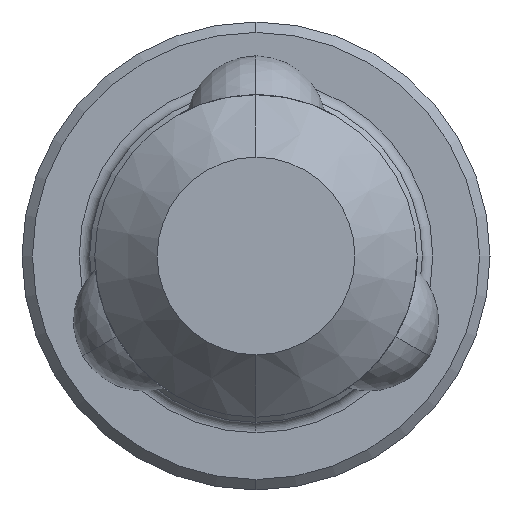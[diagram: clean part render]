
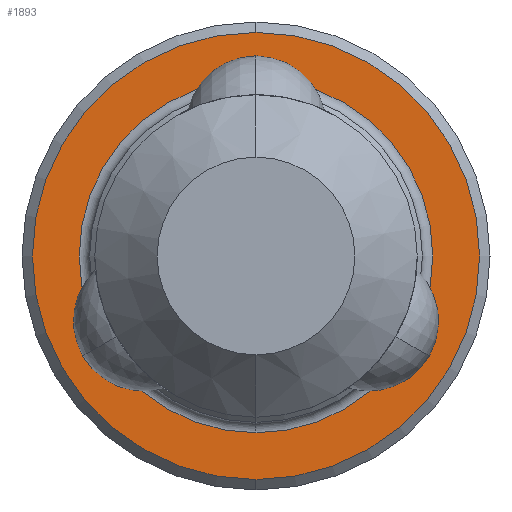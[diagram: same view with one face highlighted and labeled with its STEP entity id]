
A CAD part, front view. The second image highlights one B-rep face of the part: STEP entity #1893.
In plain terms, the highlighted planar face has unit normal (0, -1, 0).
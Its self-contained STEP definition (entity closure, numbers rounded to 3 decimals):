
#192 = CIRCLE ( 'NONE', #636, 8.5 ) ;
#281 = VERTEX_POINT ( 'NONE', #1667 ) ;
#292 = DIRECTION ( 'NONE',  ( 0., 1., 0. ) ) ;
#298 = ORIENTED_EDGE ( 'NONE', *, *, #521, .F. ) ;
#348 = CARTESIAN_POINT ( 'NONE',  ( 0., 31.8, 0. ) ) ;
#357 = CARTESIAN_POINT ( 'NONE',  ( 0., 31.8, 0. ) ) ;
#483 = VERTEX_POINT ( 'NONE', #1973 ) ;
#488 = EDGE_LOOP ( 'NONE', ( #1801, #298 ) ) ;
#521 = EDGE_CURVE ( 'NONE', #1642, #281, #1841, .T. ) ;
#547 = EDGE_LOOP ( 'NONE', ( #2656, #2269 ) ) ;
#592 = DIRECTION ( 'NONE',  ( 0., -1., 0. ) ) ;
#609 = DIRECTION ( 'NONE',  ( 0., -1., 0. ) ) ;
#628 = CARTESIAN_POINT ( 'NONE',  ( 0., 31.8, 8.5 ) ) ;
#636 = AXIS2_PLACEMENT_3D ( 'NONE', #985, #592, #2695 ) ;
#642 = AXIS2_PLACEMENT_3D ( 'NONE', #357, #745, #1220 ) ;
#745 = DIRECTION ( 'NONE',  ( 0., -1., 0. ) ) ;
#845 = AXIS2_PLACEMENT_3D ( 'NONE', #348, #2490, #1207 ) ;
#875 = VERTEX_POINT ( 'NONE', #1217 ) ;
#969 = EDGE_CURVE ( 'NONE', #875, #483, #1347, .T. ) ;
#985 = CARTESIAN_POINT ( 'NONE',  ( 0., 31.8, 0. ) ) ;
#1207 = DIRECTION ( 'NONE',  ( 0., 0., -1. ) ) ;
#1217 = CARTESIAN_POINT ( 'NONE',  ( 0., 31.8, 10.75 ) ) ;
#1220 = DIRECTION ( 'NONE',  ( 0., 0., -1. ) ) ;
#1329 = PLANE ( 'NONE',  #1758 ) ;
#1347 = CIRCLE ( 'NONE', #845, 10.75 ) ;
#1462 = DIRECTION ( 'NONE',  ( 0., 0., -1. ) ) ;
#1642 = VERTEX_POINT ( 'NONE', #628 ) ;
#1667 = CARTESIAN_POINT ( 'NONE',  ( 0., 31.8, -8.5 ) ) ;
#1737 = FACE_OUTER_BOUND ( 'NONE', #547, .T. ) ;
#1752 = FACE_BOUND ( 'NONE', #488, .T. ) ;
#1753 = EDGE_CURVE ( 'NONE', #483, #875, #2750, .T. ) ;
#1758 = AXIS2_PLACEMENT_3D ( 'NONE', #2450, #292, #1972 ) ;
#1801 = ORIENTED_EDGE ( 'NONE', *, *, #1983, .F. ) ;
#1841 = CIRCLE ( 'NONE', #642, 8.5 ) ;
#1893 = ADVANCED_FACE ( 'NONE', ( #1752, #1737 ), #1329, .F. ) ;
#1970 = AXIS2_PLACEMENT_3D ( 'NONE', #2350, #609, #1462 ) ;
#1972 = DIRECTION ( 'NONE',  ( 0., 0., 1. ) ) ;
#1973 = CARTESIAN_POINT ( 'NONE',  ( 0., 31.8, -10.75 ) ) ;
#1983 = EDGE_CURVE ( 'NONE', #281, #1642, #192, .T. ) ;
#2269 = ORIENTED_EDGE ( 'NONE', *, *, #1753, .T. ) ;
#2350 = CARTESIAN_POINT ( 'NONE',  ( 0., 31.8, 0. ) ) ;
#2450 = CARTESIAN_POINT ( 'NONE',  ( -10.75, 31.8, 0. ) ) ;
#2490 = DIRECTION ( 'NONE',  ( 0., -1., 0. ) ) ;
#2656 = ORIENTED_EDGE ( 'NONE', *, *, #969, .T. ) ;
#2695 = DIRECTION ( 'NONE',  ( 0., 0., -1. ) ) ;
#2750 = CIRCLE ( 'NONE', #1970, 10.75 ) ;
